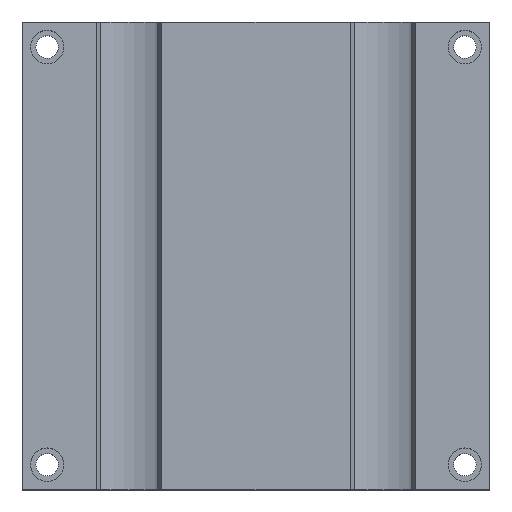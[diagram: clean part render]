
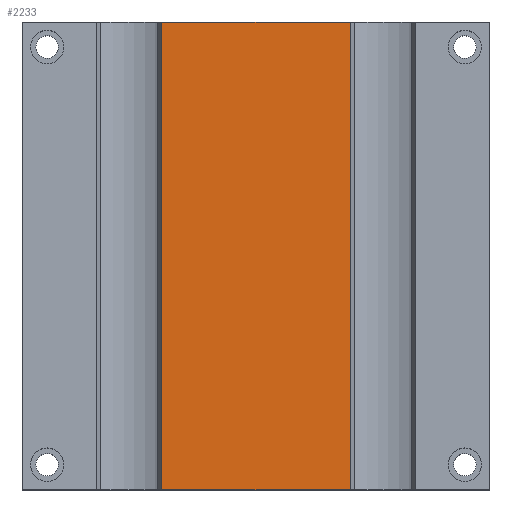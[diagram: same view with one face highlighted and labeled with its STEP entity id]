
A CAD part, top view. The second image highlights one B-rep face of the part: STEP entity #2233.
In plain terms, the highlighted planar face has unit normal (0, 0, 1).
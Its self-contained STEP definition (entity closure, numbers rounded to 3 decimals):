
#117 = CARTESIAN_POINT ( 'NONE',  ( 56.358, 140., 46.5 ) ) ;
#138 = ORIENTED_EDGE ( 'NONE', *, *, #701, .T. ) ;
#193 = VECTOR ( 'NONE', #1775, 1000. ) ;
#218 = VECTOR ( 'NONE', #3034, 1000. ) ;
#323 = VERTEX_POINT ( 'NONE', #117 ) ;
#363 = CARTESIAN_POINT ( 'NONE',  ( -56.358, 140., 46.5 ) ) ;
#409 = CARTESIAN_POINT ( 'NONE',  ( 56.358, -140., 46.5 ) ) ;
#414 = LINE ( 'NONE', #2645, #2619 ) ;
#543 = CARTESIAN_POINT ( 'NONE',  ( -56.358, -140., 46.5 ) ) ;
#590 = CARTESIAN_POINT ( 'NONE',  ( 0., 0., 46.5 ) ) ;
#633 = DIRECTION ( 'NONE',  ( 0., 1., 0. ) ) ;
#676 = VECTOR ( 'NONE', #633, 1000. ) ;
#690 = EDGE_CURVE ( 'NONE', #2071, #1065, #2108, .T. ) ;
#701 = EDGE_CURVE ( 'NONE', #1516, #323, #1622, .T. ) ;
#1065 = VERTEX_POINT ( 'NONE', #363 ) ;
#1171 = ORIENTED_EDGE ( 'NONE', *, *, #2339, .T. ) ;
#1323 = FACE_OUTER_BOUND ( 'NONE', #2352, .T. ) ;
#1516 = VERTEX_POINT ( 'NONE', #409 ) ;
#1622 = LINE ( 'NONE', #2802, #676 ) ;
#1638 = DIRECTION ( 'NONE',  ( -1., 0., 0. ) ) ;
#1707 = ORIENTED_EDGE ( 'NONE', *, *, #690, .F. ) ;
#1775 = DIRECTION ( 'NONE',  ( 1., 0., 0. ) ) ;
#1815 = DIRECTION ( 'NONE',  ( 1., 0., 0. ) ) ;
#1883 = CARTESIAN_POINT ( 'NONE',  ( -56.358, -140., 46.5 ) ) ;
#1957 = AXIS2_PLACEMENT_3D ( 'NONE', #590, #2293, #1815 ) ;
#2071 = VERTEX_POINT ( 'NONE', #543 ) ;
#2108 = LINE ( 'NONE', #1883, #218 ) ;
#2233 = ADVANCED_FACE ( 'NONE', ( #1323 ), #2338, .T. ) ;
#2253 = LINE ( 'NONE', #2741, #193 ) ;
#2293 = DIRECTION ( 'NONE',  ( 0., 0., 1. ) ) ;
#2338 = PLANE ( 'NONE',  #1957 ) ;
#2339 = EDGE_CURVE ( 'NONE', #2071, #1516, #2253, .T. ) ;
#2352 = EDGE_LOOP ( 'NONE', ( #1171, #138, #2359, #1707 ) ) ;
#2359 = ORIENTED_EDGE ( 'NONE', *, *, #2501, .T. ) ;
#2501 = EDGE_CURVE ( 'NONE', #323, #1065, #414, .T. ) ;
#2619 = VECTOR ( 'NONE', #1638, 1000. ) ;
#2645 = CARTESIAN_POINT ( 'NONE',  ( -140., 140., 46.5 ) ) ;
#2741 = CARTESIAN_POINT ( 'NONE',  ( -140., -140., 46.5 ) ) ;
#2802 = CARTESIAN_POINT ( 'NONE',  ( 56.358, -140., 46.5 ) ) ;
#3034 = DIRECTION ( 'NONE',  ( 0., 1., 0. ) ) ;
